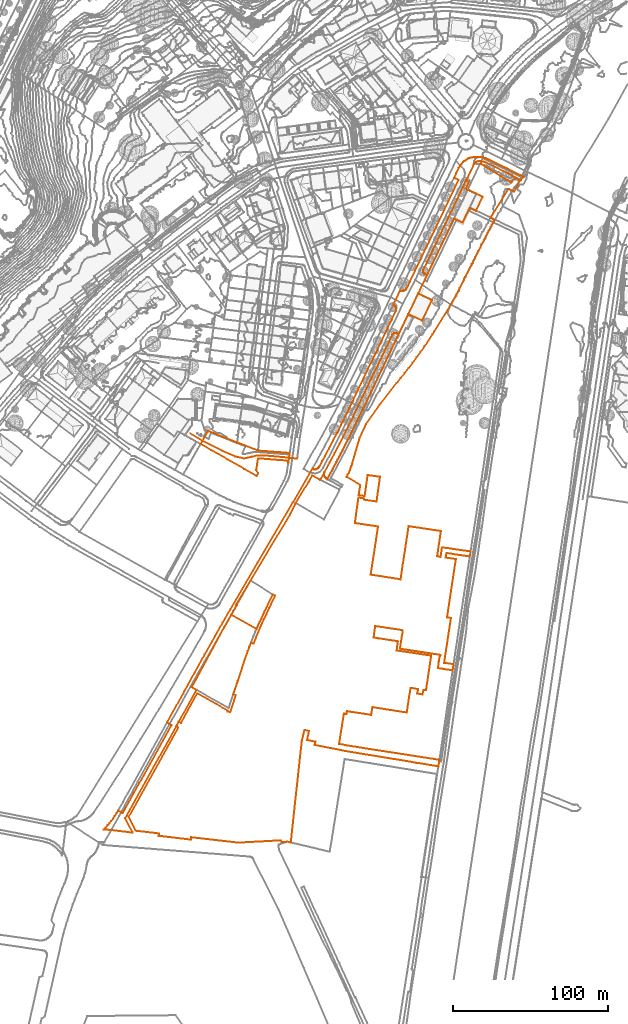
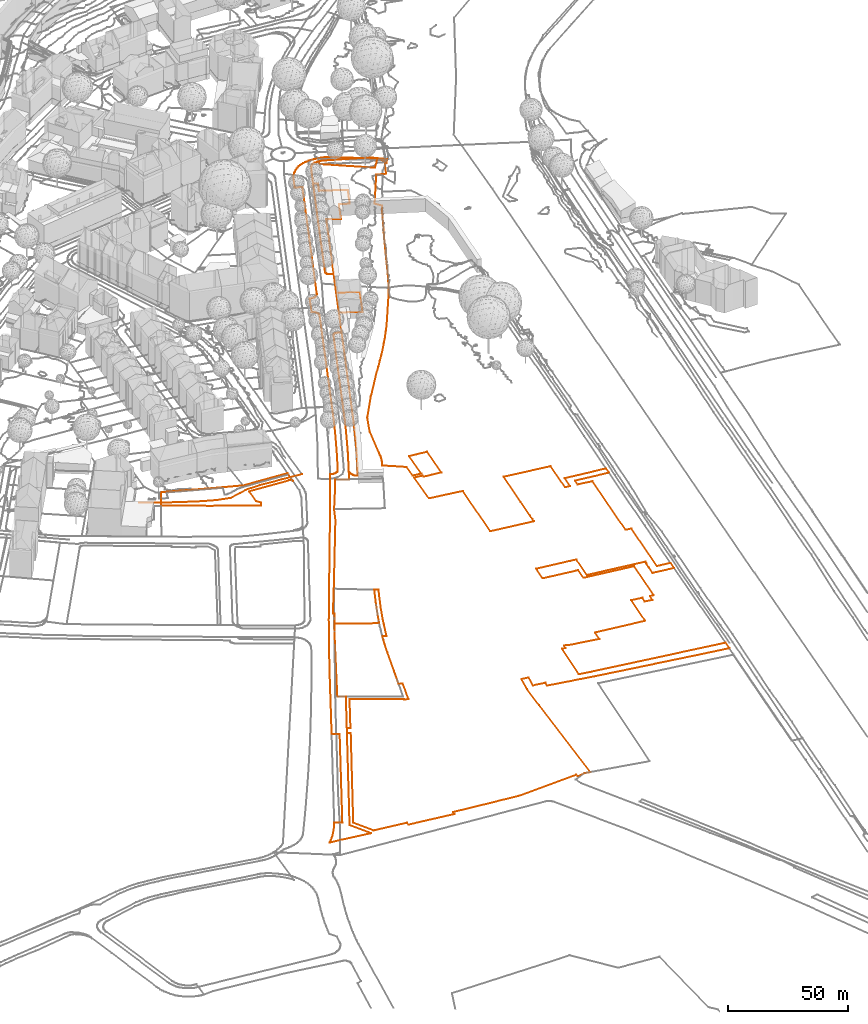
# Not in any storey, part 123 of 494: 4 proxies.
"""IFC2X3 model written with IfcOpenShell, lengths in metres."""

import ifcopenshell
import ifcopenshell.guid

model = None  # the IFC model being written
_history = None  # IfcOwnerHistory: only IFC2X3 demands one
_inside = {}  # id of a spatial element -> (the spatial element, [elements in it])
_under = {}  # id of a project, library or spatial element -> (it, [spatial elements below it])
_declared = {}  # id of a project -> (the project, [libraries it declares])
_typed = {}  # id of a type object -> (the type object, [elements of that type])
_made_of = {}  # id of a material, layer set ... -> (it, [elements and type objects made of it])


def new_model(schema):
    """Start an empty IFC model of exactly this schema.

    Asked for "IFC4X3", IfcOpenShell would pick the latest addendum, in which some entities
    have other attributes; the version numbers below select the first issue.
    IFC2X3 requires an IfcOwnerHistory on every rooted entity: one is made here for all.
    """
    global model, _history
    if schema == "IFC4X3":
        model = ifcopenshell.file(schema_version=(4, 3, 0, 0))
    else:
        model = ifcopenshell.file(schema=schema)
    _inside.clear()
    _under.clear()
    _declared.clear()
    _typed.clear()
    _made_of.clear()
    _history = None
    if model.schema == "IFC2X3":
        org = make("IfcOrganization", Name="unknown")
        user = make(
            "IfcPersonAndOrganization",
            ThePerson=make("IfcPerson", FamilyName="unknown"),
            TheOrganization=org,
        )
        app = make(
            "IfcApplication",
            ApplicationDeveloper=org,
            Version="unknown",
            ApplicationFullName="unknown",
            ApplicationIdentifier="unknown",
        )
        _history = make(
            "IfcOwnerHistory",
            OwningUser=user,
            OwningApplication=app,
            ChangeAction="ADDED",
            CreationDate=0,
        )
    return model


def make(cls, **values):
    """One entity of the class cls with the attributes given. An attribute that is None is left unset."""
    return model.create_entity(
        cls, **{name: value for name, value in values.items() if value is not None}
    )


def entity(cls, *values):
    """Any entity or typed value of the class cls, its attributes in the order of the schema. None: left unset."""
    e = model.create_entity(cls)
    for i, value in enumerate(values):
        if value is not None:
            e[i] = value
    return e


def rooted(cls, **values):
    """An entity with a GlobalId (a new one), such as an element, a storey or a relation."""
    return make(cls, GlobalId=ifcopenshell.guid.new(), OwnerHistory=_history, **values)


def si_unit(unit_type, name, prefix=None):
    """IfcSIUnit, for example si_unit("LENGTHUNIT", "METRE", prefix="MILLI")."""
    return make("IfcSIUnit", UnitType=unit_type, Prefix=prefix, Name=name)


def assignment(units):
    """IfcUnitAssignment: the units of a project."""
    return None if units is None else make("IfcUnitAssignment", Units=units)


def point(xyz):
    """IfcCartesianPoint."""
    return None if xyz is None else make("IfcCartesianPoint", Coordinates=xyz)


def direction(xyz):
    """IfcDirection."""
    return None if xyz is None else make("IfcDirection", DirectionRatios=xyz)


def frame(location, z_axis=None, x_axis=None):
    """IfcAxis2Placement3D, a coordinate frame: its origin and axes. An axis left out is left unset."""
    return make(
        "IfcAxis2Placement3D",
        Location=point(location),
        Axis=direction(z_axis),
        RefDirection=direction(x_axis),
    )


def origin_with_axes():
    """The frame at (0, 0, 0) with the z axis (0, 0, 1) and the x axis (1, 0, 0) written out."""
    return frame((0.0, 0.0, 0.0), z_axis=(0.0, 0.0, 1.0), x_axis=(1.0, 0.0, 0.0))


def place(relative_to, where):
    """IfcLocalPlacement: puts the frame where relative to a parent placement (None: the world)."""
    return make(
        "IfcLocalPlacement", PlacementRelTo=relative_to, RelativePlacement=where
    )


def context(
    kind, dimensions, precision=None, world=None, true_north=None, identifier=None
):
    """IfcGeometricRepresentationContext, for example the 3D "Model" context."""
    return make(
        "IfcGeometricRepresentationContext",
        ContextIdentifier=identifier,
        ContextType=kind,
        CoordinateSpaceDimension=dimensions,
        Precision=precision,
        WorldCoordinateSystem=world,
        TrueNorth=true_north,
    )


def subcontext(parent, identifier, kind, view, scale=None):
    """IfcGeometricRepresentationSubContext, for example "Body" below "Model"."""
    return make(
        "IfcGeometricRepresentationSubContext",
        ContextIdentifier=identifier,
        ContextType=kind,
        ParentContext=parent,
        TargetScale=scale,
        TargetView=view,
    )


def project(units=None, contexts=None):
    """IfcProject with its units and contexts."""
    return rooted(
        "IfcProject",
        Name="project",
        RepresentationContexts=contexts,
        UnitsInContext=assignment(units),
    )


def shape(context_of_items, identifier, shape_type, items):
    """IfcShapeRepresentation: the items that make up one representation, for example the "Body"."""
    return make(
        "IfcShapeRepresentation",
        ContextOfItems=context_of_items,
        RepresentationIdentifier=identifier,
        RepresentationType=shape_type,
        Items=items,
    )


def made_of(thing, what):
    """Note that an element or type object is made of a material, layer set ...; save() writes the relation."""
    if what is not None:
        _made_of.setdefault(what.id(), (what, []))[1].append(thing)
    return thing


def element(
    cls,
    number,
    at=None,
    inside=None,
    cuts=None,
    type_object=None,
    material=None,
    context=None,
    identifier="Body",
    shape_type=None,
    held_by="IfcProductDefinitionShape",
    body=None,
    shapes=None,
    **own,
):
    """One element of the class cls, such as IfcWall. Its Tag is "e" and its number.

    at: its placement. inside: the storey or other place that contains it. cuts: it is an
    opening in that element (IfcRelVoidsElement). A single representation is given by context,
    identifier, shape_type and body (its items); several are given by shapes. held_by: the class
    of the entity that holds the representations. save() writes the other relations.
    """
    e = rooted(cls, Tag="e%d" % number, ObjectPlacement=at, **own)
    if body is not None:
        shapes = [shape(context, identifier, shape_type, body)]
    if shapes is not None:
        e.Representation = make(held_by, Representations=shapes)
    if inside is not None:
        _inside.setdefault(inside.id(), (inside, []))[1].append(e)
    if cuts is not None:
        rooted(
            "IfcRelVoidsElement", RelatingBuildingElement=cuts, RelatedOpeningElement=e
        )
    if type_object is not None:
        _typed.setdefault(type_object.id(), (type_object, []))[1].append(e)
    return made_of(e, material)


def aggregate(whole, parts):
    """IfcRelAggregates: a whole, such as a stair, and the parts it consists of."""
    return rooted("IfcRelAggregates", RelatingObject=whole, RelatedObjects=parts)


def save(model, path):
    """Write the relations noted so far, then the file.

    IfcRelAggregates (storeys below a building ...), IfcRelContainedInSpatialStructure (elements
    in a storey), IfcRelDefinesByType, IfcRelAssociatesMaterial and IfcRelDeclares: one each for
    every whole, place, type object, material and project.
    """
    for whole, parts in _under.values():
        aggregate(whole, parts)
    for where, things in _inside.values():
        rooted(
            "IfcRelContainedInSpatialStructure",
            RelatedElements=things,
            RelatingStructure=where,
        )
    for kind, things in _typed.values():
        rooted("IfcRelDefinesByType", RelatedObjects=things, RelatingType=kind)
    for what, things in _made_of.values():
        rooted("IfcRelAssociatesMaterial", RelatedObjects=things, RelatingMaterial=what)
    for by, libraries in _declared.values():
        rooted("IfcRelDeclares", RelatingContext=by, RelatedDefinitions=libraries)
    model.write(path)


model = new_model("IFC2X3")

# Units and contexts
model_context = context("Model", 3, precision=1e-05, world=origin_with_axes())
body_context = subcontext(model_context, "Body", "Model", "MODEL_VIEW")
ifc_project = project(units=[si_unit("AREAUNIT", "SQUARE_METRE"), si_unit("LENGTHUNIT", "METRE")], contexts=[model_context])

# Proxies
proxy_1_placement = place(None, frame((406.3957320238, 1.5057431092, 501.889), z_axis=(0.0, 0.0, 1.0), x_axis=(1.0, 0.0, 0.0)))
element("IfcBuildingElementProxy", 1, at=proxy_1_placement, Name="Road 138", ObjectType="NOTDEFINED", context=body_context, shape_type="GeometricCurveSet", body=[
    entity("IfcGeometricCurveSet", [entity("IfcPolyline", [entity("IfcCartesianPoint", [0.0, 0.0, 0.0]), entity("IfcCartesianPoint", [8.3330000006, -5.0259998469, 0.107]), entity("IfcCartesianPoint", [21.4310000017, -11.5089996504, 0.026]), entity("IfcCartesianPoint", [29.2360000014, -14.9489995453, 0.119]), entity("IfcCartesianPoint", [35.057, -16.2709995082, -0.014]), entity("IfcCartesianPoint", [40.3480000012, -15.2139995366, -0.021]), entity("IfcCartesianPoint", [43.3910000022, -14.286999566, -0.094]), entity("IfcCartesianPoint", [50.2710000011, -14.5509995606, 0.18]), entity("IfcCartesianPoint", [60.7210000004, -15.4769995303, 0.064]), entity("IfcCartesianPoint", [69.4280000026, -16.4539994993, 0.216])])]),
])
proxy_2_placement = place(None, frame((367.0967320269, -245.9752839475, 502.7995957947), z_axis=(0.0, 0.0, 1.0), x_axis=(1.0, 0.0, 0.0)))
element("IfcBuildingElementProxy", 2, at=proxy_2_placement, Name="Roads Outline 101", ObjectType="NOTDEFINED", context=body_context, shape_type="GeometricCurveSet", body=[
    entity("IfcGeometricCurveSet", [entity("IfcPolyline", [entity("IfcCartesianPoint", [0.0, 0.0, 0.0]), entity("IfcCartesianPoint", [32.0149999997, 57.5149999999, -0.4744962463]), entity("IfcCartesianPoint", [30.6259999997, 58.2860000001, -0.457230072]), entity("IfcCartesianPoint", [31.1779999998, 59.2789999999, -0.4641001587]), entity("IfcCartesianPoint", [32.3399999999, 61.372, -0.478540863]), entity("IfcCartesianPoint", [33.676, 60.629, -0.4951756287]), entity("IfcCartesianPoint", [44.1969999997, 79.6599999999, -0.7339577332]), entity("IfcCartesianPoint", [63.9019999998, 68.473, -0.8854646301]), entity("IfcCartesianPoint", [63.7459999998, 67.9979999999, -0.8771333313]), entity("IfcCartesianPoint", [65.477, 67.443, -0.8815313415]), entity("IfcCartesianPoint", [69.085, 78.433, -0.825134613]), entity("IfcCartesianPoint", [67.4479999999, 78.97, -0.8336307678]), entity("IfcCartesianPoint", [70.2929999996, 87.52, -0.7960066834]), entity("IfcCartesianPoint", [70.3629999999, 87.73, -0.7917684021]), entity("IfcCartesianPoint", [70.4569999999, 88.0119999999, -0.7860769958]), entity("IfcCartesianPoint", [74.798, 101.142, -0.8163829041]), entity("IfcCartesianPoint", [76.7879999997, 106.7919999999, -0.8314760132]), entity("IfcCartesianPoint", [77.798, 109.567, -0.8292891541]), entity("IfcCartesianPoint", [78.8469999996, 112.327, -0.8260480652]), entity("IfcCartesianPoint", [80.5209999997, 111.649, -0.8208177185]), entity("IfcCartesianPoint", [82.077, 115.5360000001, -0.8158658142]), entity("IfcCartesianPoint", [83.6829999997, 119.4029999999, -0.790570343]), entity("IfcCartesianPoint", [85.3459999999, 123.267, -0.8630827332]), entity("IfcCartesianPoint", [87.0579999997, 127.1089999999, -0.8948240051]), entity("IfcCartesianPoint", [88.8199999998, 130.929, -0.9121874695]), entity("IfcCartesianPoint", [90.6299999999, 134.726, -0.9255916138]), entity("IfcCartesianPoint", [94.4819999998, 142.6099999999, -0.8724803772]), entity("IfcCartesianPoint", [92.8999999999, 143.3829999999, -0.8973739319]), entity("IfcCartesianPoint", [88.5089999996, 134.3929999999, -0.9099476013]), entity("IfcCartesianPoint", [87.2859999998, 131.757, -0.8972332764]), entity("IfcCartesianPoint", [84.5189999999, 125.7930000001, -0.8238294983]), entity("IfcCartesianPoint", [83.4669999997, 123.4679999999, -0.7838005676]), entity("IfcCartesianPoint", [82.443, 121.1299999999, -0.7998371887]), entity("IfcCartesianPoint", [66.1599999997, 130.297, -0.8550752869]), entity("IfcCartesianPoint", [69.8149999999, 136.5719999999, -0.8131936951]), entity("IfcCartesianPoint", [69.2629999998, 136.9309999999, -0.8222229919]), entity("IfcCartesianPoint", [78.602, 152.3529999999, -0.8259134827]), entity("IfcCartesianPoint", [104.0729999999, 195.1140000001, -0.7927701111]), entity("IfcCartesianPoint", [107.6659999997, 202.419, -0.834775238]), entity("IfcCartesianPoint", [116.0439999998, 216.074, -0.3503568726]), entity("IfcCartesianPoint", [118.3640000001, 220.1939999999, -0.2775869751]), entity("IfcCartesianPoint", [123.577, 217.351, -0.3662952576]), entity("IfcCartesianPoint", [126.2949999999, 222.4949999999, -0.3293559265]), entity("IfcCartesianPoint", [126.1459999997, 222.0279999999, -0.3208528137]), entity("IfcCartesianPoint", [126.0629999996, 221.544, -0.3167319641]), entity("IfcCartesianPoint", [126.048, 221.054, -0.3163890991]), entity("IfcCartesianPoint", [126.0999999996, 220.5659999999, -0.3182276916]), entity("IfcCartesianPoint", [126.2199999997, 220.0900000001, -0.3250758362]), entity("IfcCartesianPoint", [126.3909999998, 219.6610000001, -0.3348344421]), entity("IfcCartesianPoint", [126.6159999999, 219.2579999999, -0.3476747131]), entity("IfcCartesianPoint", [126.892, 218.888, -0.3634254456]), entity("IfcCartesianPoint", [127.2139999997, 218.557, -0.3836967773]), entity("IfcCartesianPoint", [127.5759999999, 218.2709999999, -0.4095144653]), entity("IfcCartesianPoint", [127.9729999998, 218.034, -0.4378283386]), entity("IfcCartesianPoint", [128.1209999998, 218.0900000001, -0.4428831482]), entity("IfcCartesianPoint", [131.102, 223.4569999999, -0.4439338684]), entity("IfcCartesianPoint", [134.014, 228.862, -0.4997281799]), entity("IfcCartesianPoint", [134.872, 230.4879999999, -0.4789324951]), entity("IfcCartesianPoint", [135.7239999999, 232.1159999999, -0.4543615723]), entity("IfcCartesianPoint", [136.8119999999, 234.2069999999, -0.473959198]), entity("IfcCartesianPoint", [137.895, 236.3, -0.4444682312]), entity("IfcCartesianPoint", [141.1069999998, 242.6040000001, -0.4221009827]), entity("IfcCartesianPoint", [144.2609999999, 248.936, -0.6977499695]), entity("IfcCartesianPoint", [147.3589999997, 255.297, -0.6833179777]), entity("IfcCartesianPoint", [151.2149999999, 263.385, -0.6370707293]), entity("IfcCartesianPoint", [174.2029999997, 311.4450000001, -0.2587112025]), entity("IfcCartesianPoint", [180.3799999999, 324.3570000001, -0.2063955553]), entity("IfcCartesianPoint", [180.4039999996, 324.4080000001, -0.2061052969]), entity("IfcCartesianPoint", [189.0109999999, 320.27, -0.4158625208]), entity("IfcCartesianPoint", [189.3079999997, 320.1269999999, -0.4249740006]), entity("IfcCartesianPoint", [195.6189999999, 333.263, -0.4654915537]), entity("IfcCartesianPoint", [186.6939999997, 337.5600000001, -0.2133343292]), entity("IfcCartesianPoint", [186.7679999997, 337.7150000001, -0.2139133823]), entity("IfcCartesianPoint", [192.452, 349.6029999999, -0.2125535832]), entity("IfcCartesianPoint", [209.8449999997, 385.9749999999, -0.2572576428]), entity("IfcCartesianPoint", [211.236, 385.3089999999, -0.3163276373]), entity("IfcCartesianPoint", [215.3619999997, 383.3329999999, -0.5107921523]), entity("IfcCartesianPoint", [219.2949999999, 391.5619999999, -0.4221543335]), entity("IfcCartesianPoint", [219.889, 392.8049999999, -0.4181997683]), entity("IfcCartesianPoint", [223.9679999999, 390.855, -0.36890386]), entity("IfcCartesianPoint", [228.3359999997, 399.9949999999, -0.4775265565]), entity("IfcCartesianPoint", [224.2599999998, 401.9479999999, -0.3371635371]), entity("IfcCartesianPoint", [218.7459999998, 404.5900000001, -0.2361232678]), entity("IfcCartesianPoint", [217.4509999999, 405.1909999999, -0.2374571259]), entity("IfcCartesianPoint", [219.6529999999, 409.821, -0.12318638]), entity("IfcCartesianPoint", [217.7679999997, 410.6839999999, -0.0161093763]), entity("IfcCartesianPoint", [222.6499999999, 420.696, 0.158537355]), entity("IfcCartesianPoint", [222.926, 421.1969999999, 0.165848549]), entity("IfcCartesianPoint", [223.2689999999, 421.6539999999, 0.1751849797]), entity("IfcCartesianPoint", [223.6719999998, 422.0600000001, 0.2138214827]), entity("IfcCartesianPoint", [224.1269999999, 422.406, 0.2664705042]), entity("IfcCartesianPoint", [224.6159999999, 422.6809999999, 0.3177987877]), entity("IfcCartesianPoint", [225.1379999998, 422.8869999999, 0.3339907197]), entity("IfcCartesianPoint", [225.6839999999, 423.02, 0.3225372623]), entity("IfcCartesianPoint", [226.2419999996, 423.078, 0.3221683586]), entity("IfcCartesianPoint", [226.8029999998, 423.0600000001, 0.3337241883]), entity("IfcCartesianPoint", [227.1319999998, 423.0219999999, 0.3480973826]), entity("IfcCartesianPoint", [227.4569999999, 422.96, 0.374179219]), entity("IfcCartesianPoint", [227.1629999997, 421.2789999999, 0.1937921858]), entity("IfcCartesianPoint", [246.733, 409.172, -1.133531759]), entity("IfcCartesianPoint", [249.733, 412.4469999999, 0.7491672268]), entity("IfcCartesianPoint", [252.9529999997, 410.868, -1.6869262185]), entity("IfcCartesianPoint", [253.1029999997, 410.794, -1.76926075]), entity("IfcCartesianPoint", [252.9069999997, 410.4069999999, -1.770265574]), entity("IfcCartesianPoint", [252.3359999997, 410.574, -1.7645869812]), entity("IfcCartesianPoint", [248.7069999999, 403.4239999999, -1.411277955]), entity("IfcCartesianPoint", [244.9809999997, 405.148, -1.6929978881]), entity("IfcCartesianPoint", [244.8829999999, 404.99, -1.8222445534]), entity("IfcCartesianPoint", [233.3599999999, 386.3599999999, -0.9456470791]), entity("IfcCartesianPoint", [236.1409999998, 385.0289999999, -2.1184542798]), entity("IfcCartesianPoint", [235.8509999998, 384.5109999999, -2.1131728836]), entity("IfcCartesianPoint", [235.5629999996, 383.9920000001, -2.1139098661]), entity("IfcCartesianPoint", [233.5999999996, 380.3810000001, -2.0075471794]), entity("IfcCartesianPoint", [231.6939999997, 376.7390000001, -1.9814802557]), entity("IfcCartesianPoint", [225.5659999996, 365.0049999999, -2.0702262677]), entity("IfcCartesianPoint", [221.3319999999, 356.605, -2.0227545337]), entity("IfcCartesianPoint", [217.159, 348.3400000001, -2.1124141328]), entity("IfcCartesianPoint", [213.591, 341.226, -1.9211674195]), entity("IfcCartesianPoint", [208.6119999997, 331.703, -2.1896577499]), entity("IfcCartesianPoint", [207.0919999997, 329.1189999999, -2.2053575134]), entity("IfcCartesianPoint", [197.0449999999, 313.0209999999, -1.1004401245]), entity("IfcCartesianPoint", [195.9869999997, 311.325, -1.1323594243]), entity("IfcCartesianPoint", [193.3879999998, 307.203, -1.0847990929]), entity("IfcCartesianPoint", [190.9379999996, 303.6170000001, -1.0844358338]), entity("IfcCartesianPoint", [188.4399999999, 300.064, -1.0873227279]), entity("IfcCartesianPoint", [185.895, 296.544, -1.0655221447]), entity("IfcCartesianPoint", [183.304, 293.0589999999, -1.0735690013]), entity("IfcCartesianPoint", [180.7139999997, 289.6710000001, -1.0478124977]), entity("IfcCartesianPoint", [178.0799999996, 286.317, -1.0260396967]), entity("IfcCartesianPoint", [175.4029999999, 282.9990000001, -1.0390168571]), entity("IfcCartesianPoint", [172.682, 279.7150000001, -1.0792156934]), entity("IfcCartesianPoint", [161.9439999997, 265.8759999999, -1.1370513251]), entity("IfcCartesianPoint", [153.0619999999, 253.45, -1.1485543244]), entity("IfcCartesianPoint", [148.963, 244.324, -1.1073864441]), entity("IfcCartesianPoint", [144.318, 228.601, -0.8063333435]), entity("IfcCartesianPoint", [143.9779999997, 227.3429999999, -0.780829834]), entity("IfcCartesianPoint", [143.594, 226.098, -0.7463649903]), entity("IfcCartesianPoint", [143.1659999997, 224.868, -0.7079510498]), entity("IfcCartesianPoint", [142.6939999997, 223.6529999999, -0.6458529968]), entity("IfcCartesianPoint", [142.0419999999, 222.159, -0.5540704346]), entity("IfcCartesianPoint", [141.3259999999, 220.6950000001, -0.4530114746]), entity("IfcCartesianPoint", [140.5459999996, 219.263, -0.3555889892]), entity("IfcCartesianPoint", [149.3739999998, 214.138, -1.1143769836]), entity("IfcCartesianPoint", [148.4389999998, 207.4849999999, -1.0664169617]), entity("IfcCartesianPoint", [152.25, 206.952, -1.0728956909]), entity("IfcCartesianPoint", [154.145, 220.48, -1.0624754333]), entity("IfcCartesianPoint", [162.159, 219.358, -0.997186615]), entity("IfcCartesianPoint", [159.9239999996, 203.406, -1.015441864]), entity("IfcCartesianPoint", [151.9099999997, 204.527, -1.0784096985]), entity("IfcCartesianPoint", [152.0289999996, 205.3769999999, -1.0740735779]), entity("IfcCartesianPoint", [148.2179999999, 205.9110000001, -1.0491378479]), entity("IfcCartesianPoint", [145.915, 189.5419999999, -0.9132461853]), entity("IfcCartesianPoint", [160.8629999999, 187.263, -0.9877677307]), entity("IfcCartesianPoint", [156.1549999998, 156.2139999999, -1.0580426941]), entity("IfcCartesianPoint", [175.4279999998, 153.199, -0.8785229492]), entity("IfcCartesianPoint", [175.6679999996, 154.7879999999, -0.868671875]), entity("IfcCartesianPoint", [176.04, 157.5900000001, -0.85340271]), entity("IfcCartesianPoint", [177.625, 167.9579999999, -0.8363509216]), entity("IfcCartesianPoint", [180.6009999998, 187.4609999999, -0.8157518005]), entity("IfcCartesianPoint", [201.4299999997, 184.331, -0.8229301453]), entity("IfcCartesianPoint", [198.9919999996, 168.068, -0.8334049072]), entity("IfcCartesianPoint", [201.2229999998, 167.7309999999, -0.8205296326]), entity("IfcCartesianPoint", [202.1179999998, 173.814, -0.8304761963]), entity("IfcCartesianPoint", [220.5809999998, 171.1809999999, -0.6874589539]), entity("IfcCartesianPoint", [220.0779999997, 167.9099999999, -0.6930319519]), entity("IfcCartesianPoint", [219.9279999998, 167.932, -0.6947348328]), entity("IfcCartesianPoint", [205.0049999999, 170.1499999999, -0.8252933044]), entity("IfcCartesianPoint", [204.5949999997, 167.22, -0.8297476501]), entity("IfcCartesianPoint", [211.0809999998, 166.2390000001, -0.8848924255]), entity("IfcCartesianPoint", [205.3789999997, 128.6510000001, -0.8176105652]), entity("IfcCartesianPoint", [207.906, 128.2479999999, -0.783249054]), entity("IfcCartesianPoint", [203.4989999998, 99.3159999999, -0.8324545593]), entity("IfcCartesianPoint", [209.6299999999, 98.4739999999, -0.8393149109]), entity("IfcCartesianPoint", [209.023, 94.4609999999, -0.8092370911]), entity("IfcCartesianPoint", [199.4929999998, 95.9339999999, -0.8330705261]), entity("IfcCartesianPoint", [200.051, 99.831, -0.8300904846]), entity("IfcCartesianPoint", [200.531, 103.0019999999, -0.8249589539]), entity("IfcCartesianPoint", [200.7379999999, 102.9720000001, -0.8226721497]), entity("IfcCartesianPoint", [201.0859999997, 104.4139999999, -0.8189408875]), entity("IfcCartesianPoint", [175.0349999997, 108.405, -0.8929933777]), entity("IfcCartesianPoint", [176.8419999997, 120.308, -0.8505354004]), entity("IfcCartesianPoint", [174.0629999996, 120.774, -0.8977378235]), entity("IfcCartesianPoint", [159.0819999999, 123.0279999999, -1.0229450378]), entity("IfcCartesianPoint", [157.9729999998, 115.6539999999, -1.0316834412]), entity("IfcCartesianPoint", [161.128, 115.148, -0.9813135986]), entity("IfcCartesianPoint", [173.6979999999, 113.206, -0.8983059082]), entity("IfcCartesianPoint", [172.8289999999, 107.2719999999, -0.8991277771]), entity("IfcCartesianPoint", [195.182, 103.9550000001, -0.8288854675]), entity("IfcCartesianPoint", [191.8089999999, 81.6229999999, -0.7971558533]), entity("IfcCartesianPoint", [190.0969999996, 81.852, -0.8186282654]), entity("IfcCartesianPoint", [189.6299999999, 78.9199999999, -0.8288464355]), entity("IfcCartesianPoint", [186.216, 79.46, -0.797502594]), entity("IfcCartesianPoint", [186.7139999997, 82.3370000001, -0.8000254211]), entity("IfcCartesianPoint", [181.824, 83.155, -0.8230583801]), entity("IfcCartesianPoint", [179.4079999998, 67.294, -0.8227673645]), entity("IfcCartesianPoint", [157.2119999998, 70.683, -1.0387899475]), entity("IfcCartesianPoint", [156.4419999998, 65.747, -1.0524547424]), entity("IfcCartesianPoint", [143.8299999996, 67.6499999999, -0.7675465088]), entity("IfcCartesianPoint", [140.7390000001, 68.1539999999, -0.3782591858]), entity("IfcCartesianPoint", [140.477, 66.2150000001, -0.3474841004]), entity("IfcCartesianPoint", [138.8479999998, 66.476, -0.4013226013]), entity("IfcCartesianPoint", [135.7249999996, 47.0279999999, -0.4543327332]), entity("IfcCartesianPoint", [140.7889999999, 46.0060000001, -0.3841322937]), entity("IfcCartesianPoint", [200.4939999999, 36.7290000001, -0.8253677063]), entity("IfcCartesianPoint", [199.8429999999, 32.531, -0.8312013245]), entity("IfcCartesianPoint", [185.8810000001, 34.828, -0.8006272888]), entity("IfcCartesianPoint", [140.3669999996, 42.3149999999, -0.3345632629]), entity("IfcCartesianPoint", [120.0469999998, 46.3259999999, -0.3212615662]), entity("IfcCartesianPoint", [120.466, 48.446, -0.3086906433]), entity("IfcCartesianPoint", [115.051, 49.5179999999, -0.4346318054]), entity("IfcCartesianPoint", [116.352, 55.334, -0.3320406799]), entity("IfcCartesianPoint", [113.3449999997, 56.007, -0.4951297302]), entity("IfcCartesianPoint", [111.6669999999, 48.574, -0.5777887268]), entity("IfcCartesianPoint", [110.2689999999, 35.9979999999, -0.6493772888]), entity("IfcCartesianPoint", [104.5899999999, -16.5819999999, -0.808539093]), entity("IfcCartesianPoint", [102.1519999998, -16.0460000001, -0.7627313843]), entity("IfcCartesianPoint", [98.5249999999, -16.4510000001, -0.858228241]), entity("IfcCartesianPoint", [98.4569999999, -15.182, -0.8568855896]), entity("IfcCartesianPoint", [70.503, -16.6869999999, -0.7832918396]), entity("IfcCartesianPoint", [40.389, -13.209, -0.6814051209]), entity("IfcCartesianPoint", [40.2109999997, -14.753, -0.6791453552]), entity("IfcCartesianPoint", [19.443, -12.2750000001, -0.3180801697]), entity("IfcCartesianPoint", [19.6199999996, -10.7679999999, -0.3202840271]), entity("IfcCartesianPoint", [4.5729999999, -9.0, -0.0535524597]), entity("IfcCartesianPoint", [0.0, 0.0, 0.0])])]),
])
proxy_3_placement = place(None, frame((351.0367320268, -254.1292839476, 503.2168255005), z_axis=(0.0, 0.0, 1.0), x_axis=(1.0, 0.0, 0.0)))
element("IfcBuildingElementProxy", 3, at=proxy_3_placement, Name="Roads Outline 102", ObjectType="NOTDEFINED", context=body_context, shape_type="GeometricCurveSet", body=[
    entity("IfcGeometricCurveSet", [entity("IfcPolyline", [entity("IfcCartesianPoint", [0.0, 0.0, 0.0]), entity("IfcCartesianPoint", [1.2609999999, 1.331, -0.0638042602]), entity("IfcCartesianPoint", [2.4809999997, 2.6980000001, -0.0910112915]), entity("IfcCartesianPoint", [3.6609999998, 4.101, -0.0978447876]), entity("IfcCartesianPoint", [4.798, 5.5390000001, -0.1066102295]), entity("IfcCartesianPoint", [5.9819999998, 7.138, -0.1389079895]), entity("IfcCartesianPoint", [7.1140000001, 8.7750000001, -0.1655367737]), entity("IfcCartesianPoint", [8.1919999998, 10.4480000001, -0.1853871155]), entity("IfcCartesianPoint", [9.2149999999, 12.155, -0.243539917]), entity("IfcCartesianPoint", [12.1809999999, 10.5260000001, -0.3887371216]), entity("IfcCartesianPoint", [43.6669999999, 67.291, -0.8369002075]), entity("IfcCartesianPoint", [40.7349999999, 68.909, -0.8004057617]), entity("IfcCartesianPoint", [51.8759999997, 89.0390000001, -1.0005606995]), entity("IfcCartesianPoint", [58.4550000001, 100.9990000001, -1.131043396]), entity("IfcCartesianPoint", [65.0899999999, 112.929, -1.0716214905]), entity("IfcCartesianPoint", [71.781, 124.827, -1.1322295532]), entity("IfcCartesianPoint", [76.7420000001, 133.5650000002, -1.1456403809]), entity("IfcCartesianPoint", [81.733, 142.2860000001, -1.2908894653]), entity("IfcCartesianPoint", [99.2139999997, 172.1300000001, -1.1912203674]), entity("IfcCartesianPoint", [121.8689999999, 210.7340000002, -1.2597493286]), entity("IfcCartesianPoint", [134.554, 232.713, -0.6980103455]), entity("IfcCartesianPoint", [134.9240000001, 232.5190000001, -0.7071000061]), entity("IfcCartesianPoint", [135.3169999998, 232.3770000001, -0.7171790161]), entity("IfcCartesianPoint", [135.7259999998, 232.2880000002, -0.7282128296]), entity("IfcCartesianPoint", [136.142, 232.2550000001, -0.7393734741]), entity("IfcCartesianPoint", [136.5600000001, 232.2780000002, -0.724729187]), entity("IfcCartesianPoint", [136.9699999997, 232.3570000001, -0.7103651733]), entity("IfcCartesianPoint", [137.4389999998, 232.52, -0.7146326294]), entity("IfcCartesianPoint", [137.8769999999, 232.757, -0.7297102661]), entity("IfcCartesianPoint", [138.2709999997, 233.0590000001, -0.7466335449]), entity("IfcCartesianPoint", [138.6119999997, 233.4210000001, -0.7671863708]), entity("IfcCartesianPoint", [138.892, 233.8320000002, -0.7840625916]), entity("IfcCartesianPoint", [139.102, 234.2820000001, -0.7967197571]), entity("IfcCartesianPoint", [140.9189999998, 237.595, -0.723994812]), entity("IfcCartesianPoint", [142.7179999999, 240.919, -0.7673012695]), entity("IfcCartesianPoint", [145.3359999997, 245.8490000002, -0.7929735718]), entity("IfcCartesianPoint", [147.912, 250.801, -0.8902315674]), entity("IfcCartesianPoint", [150.5019999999, 255.8390000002, -0.9040008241]), entity("IfcCartesianPoint", [153.0499999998, 260.898, -0.8784210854]), entity("IfcCartesianPoint", [155.7509999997, 266.3740000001, -0.8468294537]), entity("IfcCartesianPoint", [158.4029999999, 271.8730000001, -0.8651366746]), entity("IfcCartesianPoint", [188.4369999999, 334.7180000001, -0.6597456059]), entity("IfcCartesianPoint", [188.571, 335.1700000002, -0.6749855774]), entity("IfcCartesianPoint", [188.6349999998, 335.6360000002, -0.6922962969]), entity("IfcCartesianPoint", [188.6269999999, 336.1070000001, -0.6987726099]), entity("IfcCartesianPoint", [188.5460000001, 336.5720000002, -0.6961793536]), entity("IfcCartesianPoint", [188.3959999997, 337.0180000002, -0.6812479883]), entity("IfcCartesianPoint", [188.1839999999, 337.4300000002, -0.6695233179]), entity("IfcCartesianPoint", [187.912, 337.8060000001, -0.650335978]), entity("IfcCartesianPoint", [187.5869999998, 338.1370000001, -0.6470246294]), entity("IfcCartesianPoint", [187.216, 338.415, -0.6608550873]), entity("IfcCartesianPoint", [186.807, 338.6340000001, -0.6931176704]), entity("IfcCartesianPoint", [191.1000000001, 347.5600000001, -0.7262553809]), entity("IfcCartesianPoint", [191.5490000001, 347.388, -0.7012785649]), entity("IfcCartesianPoint", [192.0189999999, 347.2860000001, -0.677988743]), entity("IfcCartesianPoint", [192.4979999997, 347.2550000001, -0.6759393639]), entity("IfcCartesianPoint", [192.977, 347.2960000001, -0.6829042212]), entity("IfcCartesianPoint", [193.4449999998, 347.4080000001, -0.6760825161]), entity("IfcCartesianPoint", [193.8899999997, 347.5890000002, -0.6613487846]), entity("IfcCartesianPoint", [194.2999999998, 347.8320000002, -0.6479608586]), entity("IfcCartesianPoint", [194.6699999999, 348.1330000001, -0.6524565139]), entity("IfcCartesianPoint", [194.9909999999, 348.486, -0.6663277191]), entity("IfcCartesianPoint", [195.2560000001, 348.882, -0.6823204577]), entity("IfcCartesianPoint", [195.46, 349.3130000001, -0.690844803]), entity("IfcCartesianPoint", [209.8729999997, 379.4280000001, -0.5818723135]), entity("IfcCartesianPoint", [228.7659999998, 419.0050000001, -0.4148632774]), entity("IfcCartesianPoint", [225.9019999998, 420.379, -0.6887152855]), entity("IfcCartesianPoint", [227.4359999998, 423.5520000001, -0.693990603]), entity("IfcCartesianPoint", [228.9750000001, 426.7220000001, -0.655883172]), entity("IfcCartesianPoint", [229.429, 427.5290000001, -0.6334422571]), entity("IfcCartesianPoint", [229.9339999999, 428.3050000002, -0.6227176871]), entity("IfcCartesianPoint", [230.4899999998, 429.0460000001, -0.5972124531]), entity("IfcCartesianPoint", [231.0929999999, 429.7490000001, -0.571365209]), entity("IfcCartesianPoint", [231.7409999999, 430.4100000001, -0.5217758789]), entity("IfcCartesianPoint", [232.4779999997, 431.067, -0.4707066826]), entity("IfcCartesianPoint", [233.2599999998, 431.6700000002, -0.4400006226]), entity("IfcCartesianPoint", [234.0819999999, 432.2170000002, -0.406837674]), entity("IfcCartesianPoint", [234.9410000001, 432.7050000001, -0.3663669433]), entity("IfcCartesianPoint", [235.7960000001, 433.0690000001, -0.350448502]), entity("IfcCartesianPoint", [236.6779999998, 433.3600000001, -0.3054017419]), entity("IfcCartesianPoint", [237.5819999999, 433.577, -0.2611265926]), entity("IfcCartesianPoint", [238.5, 433.7180000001, -0.2430979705]), entity("IfcCartesianPoint", [239.4580000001, 433.8250000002, -0.242356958]), entity("IfcCartesianPoint", [240.4210000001, 433.8660000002, -0.2008647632]), entity("IfcCartesianPoint", [241.3849999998, 433.841, -0.1420476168]), entity("IfcCartesianPoint", [242.3449999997, 433.7510000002, -0.1279702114]), entity("IfcCartesianPoint", [243.3079999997, 433.6470000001, -0.1297651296]), entity("IfcCartesianPoint", [244.264, 433.4980000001, -0.1594958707]), entity("IfcCartesianPoint", [245.213, 433.304, -0.115142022]), entity("IfcCartesianPoint", [246.2590000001, 433.0020000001, -0.0999524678]), entity("IfcCartesianPoint", [247.281, 432.628, -0.0526545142]), entity("IfcCartesianPoint", [248.2760000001, 432.186, -0.015865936]), entity("IfcCartesianPoint", [270.852, 421.085, -2.1960149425]), entity("IfcCartesianPoint", [269.0129999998, 419.0220000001, -2.1041559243]), entity("IfcCartesianPoint", [265.7930000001, 420.601, 0.331937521]), entity("IfcCartesianPoint", [263.3909999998, 421.7790000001, 0.6355931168]), entity("IfcCartesianPoint", [263.463, 421.966, 0.654918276]), entity("IfcCartesianPoint", [246.5830000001, 430.206, 0.0515275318]), entity("IfcCartesianPoint", [245.8100000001, 430.5080000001, 0.0393977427]), entity("IfcCartesianPoint", [245.0209999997, 430.7650000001, 0.1059326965]), entity("IfcCartesianPoint", [244.2739999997, 430.96, 0.0264932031]), entity("IfcCartesianPoint", [243.517, 431.1140000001, -0.0430504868]), entity("IfcCartesianPoint", [243.1919999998, 431.176, -0.0691323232]), entity("IfcCartesianPoint", [242.8629999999, 431.2140000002, -0.0835055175]), entity("IfcCartesianPoint", [242.3019999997, 431.2320000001, -0.0950613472]), entity("IfcCartesianPoint", [241.7439999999, 431.1740000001, -0.0946924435]), entity("IfcCartesianPoint", [241.1979999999, 431.041, -0.0832389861]), entity("IfcCartesianPoint", [240.676, 430.835, -0.0994309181]), entity("IfcCartesianPoint", [240.1869999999, 430.5600000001, -0.1507592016]), entity("IfcCartesianPoint", [239.7319999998, 430.2140000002, -0.2034082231]), entity("IfcCartesianPoint", [239.3289999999, 429.808, -0.2420447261]), entity("IfcCartesianPoint", [238.986, 429.351, -0.2513811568]), entity("IfcCartesianPoint", [238.71, 428.8500000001, -0.2586923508]), entity("IfcCartesianPoint", [233.8279999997, 418.838, -0.4333390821]), entity("IfcCartesianPoint", [206.2590000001, 361.1780000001, -0.632045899]), entity("IfcCartesianPoint", [206.1499999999, 360.9210000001, -0.6170595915]), entity("IfcCartesianPoint", [206.077, 360.652, -0.6108650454]), entity("IfcCartesianPoint", [206.0389999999, 360.3760000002, -0.6140271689]), entity("IfcCartesianPoint", [206.0469999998, 360.02, -0.6134878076]), entity("IfcCartesianPoint", [206.1149999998, 359.6700000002, -0.6120412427]), entity("IfcCartesianPoint", [206.2429999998, 359.338, -0.6129052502]), entity("IfcCartesianPoint", [206.426, 359.0320000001, -0.6118935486]), entity("IfcCartesianPoint", [206.659, 358.763, -0.6073761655]), entity("IfcCartesianPoint", [206.9350000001, 358.5380000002, -0.5968724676]), entity("IfcCartesianPoint", [207.2450000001, 358.3630000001, -0.595981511]), entity("IfcCartesianPoint", [208.5120000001, 357.757, -0.629783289]), entity("IfcCartesianPoint", [202.8279999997, 345.8690000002, -0.6311430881]), entity("IfcCartesianPoint", [202.7539999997, 345.7140000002, -0.630564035]), entity("IfcCartesianPoint", [196.4639999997, 332.5620000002, -0.6233350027]), entity("IfcCartesianPoint", [196.4399999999, 332.5110000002, -0.6236252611]), entity("IfcCartesianPoint", [190.2629999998, 319.5990000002, -0.6759409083]), entity("IfcCartesianPoint", [188.889, 320.112, -0.6476289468]), entity("IfcCartesianPoint", [188.5689999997, 320.2250000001, -0.6470097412]), entity("IfcCartesianPoint", [188.236, 320.2860000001, -0.6486063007]), entity("IfcCartesianPoint", [187.8969999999, 320.294, -0.642269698]), entity("IfcCartesianPoint", [187.5609999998, 320.2480000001, -0.6298667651]), entity("IfcCartesianPoint", [187.1839999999, 320.128, -0.6073320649]), entity("IfcCartesianPoint", [186.835, 319.9410000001, -0.6120658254]), entity("IfcCartesianPoint", [186.5269999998, 319.692, -0.6282297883]), entity("IfcCartesianPoint", [186.2709999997, 319.3910000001, -0.6410105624]), entity("IfcCartesianPoint", [186.074, 319.047, -0.6385171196]), entity("IfcCartesianPoint", [159.7459999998, 264.0530000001, -0.8736812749]), entity("IfcCartesianPoint", [155.9909999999, 256.5420000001, -0.7989420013]), entity("IfcCartesianPoint", [152.1910000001, 249.054, -0.8633403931]), entity("IfcCartesianPoint", [148.9679999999, 242.8900000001, -0.8906522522]), entity("IfcCartesianPoint", [145.6889999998, 236.754, -0.7864668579]), entity("IfcCartesianPoint", [142.355, 230.649, -0.7465856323]), entity("IfcCartesianPoint", [139.6370000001, 225.5050000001, -0.7835249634]), entity("IfcCartesianPoint", [134.4240000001, 228.348, -0.6948166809]), entity("IfcCartesianPoint", [132.1039999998, 224.2280000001, -0.7675865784]), entity("IfcCartesianPoint", [123.7259999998, 210.5730000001, -1.2520049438]), entity("IfcCartesianPoint", [120.1329999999, 203.2680000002, -1.2099998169]), entity("IfcCartesianPoint", [94.662, 160.507, -1.2431431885]), entity("IfcCartesianPoint", [85.3229999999, 145.085, -1.2394526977]), entity("IfcCartesianPoint", [85.875, 144.726, -1.2304234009]), entity("IfcCartesianPoint", [82.2199999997, 138.4510000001, -1.2723049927]), entity("IfcCartesianPoint", [77.6799999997, 130.4000000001, -1.1672857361]), entity("IfcCartesianPoint", [56.6439999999, 91.7180000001, -1.1011104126]), entity("IfcCartesianPoint", [59.7539999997, 89.973, -1.1451659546]), entity("IfcCartesianPoint", [59.6829999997, 89.8460000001, -1.14468927]), entity("IfcCartesianPoint", [48.3999999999, 69.5260000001, -0.8957705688]), entity("IfcCartesianPoint", [47.2379999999, 67.433, -0.8813298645]), entity("IfcCartesianPoint", [46.6859999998, 66.4400000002, -0.8744597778]), entity("IfcCartesianPoint", [13.8509999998, 7.3910000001, -0.4139315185]), entity("IfcCartesianPoint", [18.6839999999, -2.115, -0.4437413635]), entity("IfcCartesianPoint", [4.7969999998, -0.3759999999, -0.106593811]), entity("IfcCartesianPoint", [0.0, 0.0, 0.0])])]),
])
proxy_4_placement = place(None, frame((413.4387320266, -5.4722839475, 502.0250486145), z_axis=(0.0, 0.0, 1.0), x_axis=(1.0, 0.0, 0.0)))
element("IfcBuildingElementProxy", 4, at=proxy_4_placement, Name="Cadastre 152", ObjectType="NOTDEFINED", context=body_context, shape_type="GeometricCurveSet", body=[
    entity("IfcGeometricCurveSet", [entity("IfcPolyline", [entity("IfcCartesianPoint", [0.0, 0.0, 0.0]), entity("IfcCartesianPoint", [4.75, 8.371, 0.1848864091]), entity("IfcCartesianPoint", [23.6680000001, 0.9909999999, -0.0354568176]), entity("IfcCartesianPoint", [37.1460000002, -4.2690000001, -0.0099115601]), entity("IfcCartesianPoint", [57.5750000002, -5.7990000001, -0.0154474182]), entity("IfcCartesianPoint", [56.6540000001, -12.0490000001, 0.0005600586]), entity("IfcCartesianPoint", [56.665, -11.8020000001, 0.0004133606]), entity("IfcCartesianPoint", [56.6260000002, -11.558, 0.0009334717]), entity("IfcCartesianPoint", [56.5380000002, -11.327, 0.0021070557]), entity("IfcCartesianPoint", [56.406, -11.118, 0.0038674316]), entity("IfcCartesianPoint", [56.233, -10.9410000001, 0.0061745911]), entity("IfcCartesianPoint", [56.0270000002, -10.804, 0.0089218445]), entity("IfcCartesianPoint", [55.798, -10.7120000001, 0.0119758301]), entity("IfcCartesianPoint", [55.554, -10.669, 0.0124408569]), entity("IfcCartesianPoint", [37.1060000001, -9.2690000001, -0.008657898]), entity("IfcCartesianPoint", [36.0049999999, -16.8490000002, -0.029523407]), entity("IfcCartesianPoint", [37.2450000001, -18.7690000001, -0.0130143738]), entity("IfcCartesianPoint", [36.2250000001, -20.6189999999, -0.0198218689]), entity("IfcCartesianPoint", [28.2460000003, -16.0790000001, -0.0467063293]), entity("IfcCartesianPoint", [17.577, -9.9890000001, -0.1118253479]), entity("IfcCartesianPoint", [6.909, -3.919, 0.0466829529]), entity("IfcCartesianPoint", [0.0, 0.0, 0.0])])]),
])

save(model, "model.ifc")
